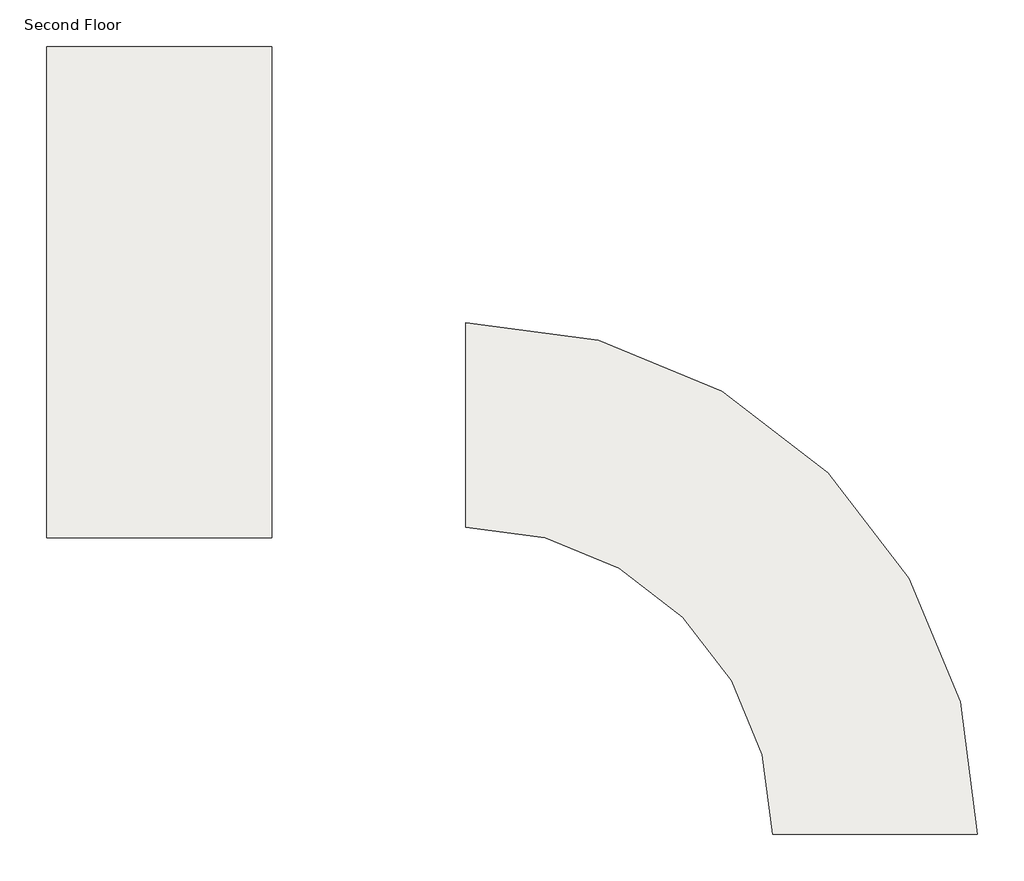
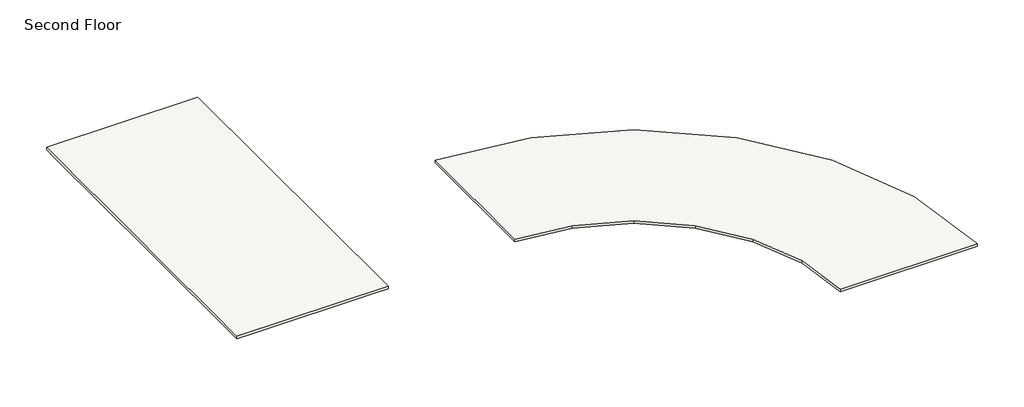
# One storey: 2 slabs.
"""IFC4 building model written with IfcOpenShell, lengths in millimetres."""

import ifcopenshell
import ifcopenshell.guid

model = None  # the IFC model being written
_history = None  # IfcOwnerHistory: only IFC2X3 demands one
_inside = {}  # id of a spatial element -> (the spatial element, [elements in it])
_under = {}  # id of a project, library or spatial element -> (it, [spatial elements below it])
_declared = {}  # id of a project -> (the project, [libraries it declares])
_typed = {}  # id of a type object -> (the type object, [elements of that type])
_made_of = {}  # id of a material, layer set ... -> (it, [elements and type objects made of it])


def new_model(schema):
    """Start an empty IFC model of exactly this schema.

    Asked for "IFC4X3", IfcOpenShell would pick the latest addendum, in which some entities
    have other attributes; the version numbers below select the first issue.
    IFC2X3 requires an IfcOwnerHistory on every rooted entity: one is made here for all.
    """
    global model, _history
    if schema == "IFC4X3":
        model = ifcopenshell.file(schema_version=(4, 3, 0, 0))
    else:
        model = ifcopenshell.file(schema=schema)
    _inside.clear()
    _under.clear()
    _declared.clear()
    _typed.clear()
    _made_of.clear()
    _history = None
    if model.schema == "IFC2X3":
        org = make("IfcOrganization", Name="unknown")
        user = make(
            "IfcPersonAndOrganization",
            ThePerson=make("IfcPerson", FamilyName="unknown"),
            TheOrganization=org,
        )
        app = make(
            "IfcApplication",
            ApplicationDeveloper=org,
            Version="unknown",
            ApplicationFullName="unknown",
            ApplicationIdentifier="unknown",
        )
        _history = make(
            "IfcOwnerHistory",
            OwningUser=user,
            OwningApplication=app,
            ChangeAction="ADDED",
            CreationDate=0,
        )
    return model


def make(cls, **values):
    """One entity of the class cls with the attributes given. An attribute that is None is left unset."""
    return model.create_entity(
        cls, **{name: value for name, value in values.items() if value is not None}
    )


def rooted(cls, **values):
    """An entity with a GlobalId (a new one), such as an element, a storey or a relation."""
    return make(cls, GlobalId=ifcopenshell.guid.new(), OwnerHistory=_history, **values)


def si_unit(unit_type, name, prefix=None):
    """IfcSIUnit, for example si_unit("LENGTHUNIT", "METRE", prefix="MILLI")."""
    return make("IfcSIUnit", UnitType=unit_type, Prefix=prefix, Name=name)


def assignment(units):
    """IfcUnitAssignment: the units of a project."""
    return None if units is None else make("IfcUnitAssignment", Units=units)


def point(xyz):
    """IfcCartesianPoint."""
    return None if xyz is None else make("IfcCartesianPoint", Coordinates=xyz)


def direction(xyz):
    """IfcDirection."""
    return None if xyz is None else make("IfcDirection", DirectionRatios=xyz)


def frame(location, z_axis=None, x_axis=None):
    """IfcAxis2Placement3D, a coordinate frame: its origin and axes. An axis left out is left unset."""
    return make(
        "IfcAxis2Placement3D",
        Location=point(location),
        Axis=direction(z_axis),
        RefDirection=direction(x_axis),
    )


def origin():
    """The frame at (0, 0, 0) with its axes left unset."""
    return frame((0.0, 0.0, 0.0))


def place(relative_to, where):
    """IfcLocalPlacement: puts the frame where relative to a parent placement (None: the world)."""
    return make(
        "IfcLocalPlacement", PlacementRelTo=relative_to, RelativePlacement=where
    )


def context(
    kind, dimensions, precision=None, world=None, true_north=None, identifier=None
):
    """IfcGeometricRepresentationContext, for example the 3D "Model" context."""
    return make(
        "IfcGeometricRepresentationContext",
        ContextIdentifier=identifier,
        ContextType=kind,
        CoordinateSpaceDimension=dimensions,
        Precision=precision,
        WorldCoordinateSystem=world,
        TrueNorth=true_north,
    )


def project(units=None, contexts=None):
    """IfcProject with its units and contexts."""
    return rooted(
        "IfcProject",
        Name="project",
        RepresentationContexts=contexts,
        UnitsInContext=assignment(units),
    )


def spatial(cls, under=None, at=None, **own):
    """A site, building, storey or space (cls), placed at a placement, below another one or the project."""
    s = rooted(cls, ObjectPlacement=at, **own)
    if under is not None:
        _under.setdefault(under.id(), (under, []))[1].append(s)
    return s


def polyline(points):
    """IfcPolyline through the points."""
    return make("IfcPolyline", Points=[point(p) for p in points])


def outline(outer, holes=None, kind="AREA"):
    """IfcArbitraryClosedProfileDef: a profile drawn as a closed curve; with holes, ...WithVoids."""
    if holes is None:
        return make("IfcArbitraryClosedProfileDef", ProfileType=kind, OuterCurve=outer)
    return make(
        "IfcArbitraryProfileDefWithVoids",
        ProfileType=kind,
        OuterCurve=outer,
        InnerCurves=holes,
    )


def extrude(swept, where, along, depth):
    """IfcExtrudedAreaSolid: the profile swept, set in the frame where, extruded along a direction by depth."""
    return make(
        "IfcExtrudedAreaSolid",
        SweptArea=swept,
        Position=where,
        ExtrudedDirection=direction(along),
        Depth=depth,
    )


def faces_of(points, faces, orient=None, outer=None):
    """IfcFace entities. A face is a list of loops; a loop is a list of indices into points, from 0.

    orient and outer hold one flag for each loop. By default every Orientation is true, the
    first loop of a face is its IfcFaceOuterBound and the others are IfcFaceBound.
    """
    made = []
    for i, loops in enumerate(faces):
        bounds = []
        for j, loop in enumerate(loops):
            is_outer = j == 0 if outer is None else outer[i][j]
            bounds.append(
                make(
                    "IfcFaceOuterBound" if is_outer else "IfcFaceBound",
                    Bound=make("IfcPolyLoop", Polygon=[points[k] for k in loop]),
                    Orientation=True if orient is None else orient[i][j],
                )
            )
        made.append(make("IfcFace", Bounds=bounds))
    return made


def faceted_brep(points, faces, orient=None, outer=None, voids=None):
    """IfcFacetedBrep: a solid bounded by flat faces; with voids (closed shells), ...WithVoids."""
    shared = [point(p) for p in points]
    hull = make("IfcClosedShell", CfsFaces=faces_of(shared, faces, orient, outer))
    if voids is None:
        return make("IfcFacetedBrep", Outer=hull)
    return make(
        "IfcFacetedBrepWithVoids",
        Outer=hull,
        Voids=[
            make(cls, CfsFaces=faces_of(shared, fs, o, b)) for cls, fs, o, b in voids
        ],
    )


def shape(context_of_items, identifier, shape_type, items):
    """IfcShapeRepresentation: the items that make up one representation, for example the "Body"."""
    return make(
        "IfcShapeRepresentation",
        ContextOfItems=context_of_items,
        RepresentationIdentifier=identifier,
        RepresentationType=shape_type,
        Items=items,
    )


def made_of(thing, what):
    """Note that an element or type object is made of a material, layer set ...; save() writes the relation."""
    if what is not None:
        _made_of.setdefault(what.id(), (what, []))[1].append(thing)
    return thing


def element(
    cls,
    number,
    at=None,
    inside=None,
    cuts=None,
    type_object=None,
    material=None,
    context=None,
    identifier="Body",
    shape_type=None,
    held_by="IfcProductDefinitionShape",
    body=None,
    shapes=None,
    **own,
):
    """One element of the class cls, such as IfcWall. Its Tag is "e" and its number.

    at: its placement. inside: the storey or other place that contains it. cuts: it is an
    opening in that element (IfcRelVoidsElement). A single representation is given by context,
    identifier, shape_type and body (its items); several are given by shapes. held_by: the class
    of the entity that holds the representations. save() writes the other relations.
    """
    e = rooted(cls, Tag="e%d" % number, ObjectPlacement=at, **own)
    if body is not None:
        shapes = [shape(context, identifier, shape_type, body)]
    if shapes is not None:
        e.Representation = make(held_by, Representations=shapes)
    if inside is not None:
        _inside.setdefault(inside.id(), (inside, []))[1].append(e)
    if cuts is not None:
        rooted(
            "IfcRelVoidsElement", RelatingBuildingElement=cuts, RelatedOpeningElement=e
        )
    if type_object is not None:
        _typed.setdefault(type_object.id(), (type_object, []))[1].append(e)
    return made_of(e, material)


def aggregate(whole, parts):
    """IfcRelAggregates: a whole, such as a stair, and the parts it consists of."""
    return rooted("IfcRelAggregates", RelatingObject=whole, RelatedObjects=parts)


def save(model, path):
    """Write the relations noted so far, then the file.

    IfcRelAggregates (storeys below a building ...), IfcRelContainedInSpatialStructure (elements
    in a storey), IfcRelDefinesByType, IfcRelAssociatesMaterial and IfcRelDeclares: one each for
    every whole, place, type object, material and project.
    """
    for whole, parts in _under.values():
        aggregate(whole, parts)
    for where, things in _inside.values():
        rooted(
            "IfcRelContainedInSpatialStructure",
            RelatedElements=things,
            RelatingStructure=where,
        )
    for kind, things in _typed.values():
        rooted("IfcRelDefinesByType", RelatedObjects=things, RelatingType=kind)
    for what, things in _made_of.values():
        rooted("IfcRelAssociatesMaterial", RelatedObjects=things, RelatingMaterial=what)
    for by, libraries in _declared.values():
        rooted("IfcRelDeclares", RelatingContext=by, RelatedDefinitions=libraries)
    model.write(path)


model = new_model("IFC4")

# Units and contexts
model_context = context("Model", 3, world=origin())
ifc_project = project(units=[si_unit("LENGTHUNIT", "METRE", prefix="MILLI")], contexts=[model_context])

# Site, building, storey
site = spatial("IfcSite", under=ifc_project)
building = spatial("IfcBuilding", under=site)
storey = spatial("IfcBuildingStorey", under=building, Name="Second Floor", Elevation=3048.0)

# Slabs
placement = place(None, origin())
element("IfcSlab", 1, ObjectType="LW Concrete on Metal Deck", at=placement, inside=storey, context=model_context, shape_type="Brep", body=[
    faceted_brep([(-34446.2783408, 12731.8963551, 3048.0), (-34446.2783408, 12122.2963551, 3048.0), (-34446.2783408, 4807.0963551, 3048.0), (-34446.2783408, 4197.4963551, 3048.0), (-34446.2783408, -1288.9036449, 3048.0), (-34446.2783408, -1898.5036449, 3048.0), (-35055.8783408, -1898.5036449, 3048.0), (-40542.2783408, -1898.5036449, 3048.0), (-41151.8783408, -1898.5036449, 3048.0), (-41151.8783408, -1288.9036449, 3048.0), (-41151.8783408, 4197.4963551, 3048.0), (-41151.8783408, 4807.0963551, 3048.0), (-41151.8783408, 12122.2963551, 3048.0), (-41151.8783408, 12731.8963551, 3048.0), (-40542.2783408, 12731.8963551, 3048.0), (-35055.8783408, 12731.8963551, 3048.0), (-34446.2783408, 12731.8963551, 3168.65), (-41151.8783408, 12731.8963551, 3168.65), (-41151.8783408, -1898.5036449, 3168.65), (-34446.2783408, -1898.5036449, 3168.65)], [[[0, 1, 2, 3, 4, 5, 6, 7, 8, 9, 10, 11, 12, 13, 14, 15]], [[16, 17, 18, 19]], [[5, 4, 3, 2, 1, 0, 16, 19]], [[8, 7, 6, 5, 19, 18]], [[13, 12, 11, 10, 9, 8, 18, 17]], [[0, 15, 14, 13, 17, 16]]]),
])
element("IfcSlab", 2, ObjectType="LW Concrete on Metal Deck", at=placement, inside=storey, context=model_context, shape_type="SweptSolid", body=[
    extrude(outline(polyline([(-24710.6760935, 3983.0059477), (-21035.0783408, 2460.5235088), (-17878.7709955, 38.6037004), (-15456.8511871, -3117.7036449), (-13934.3687482, -6793.3013975), (-13415.0783408, -10737.7036449), (-19511.0783408, -10737.7036449), (-19822.6525852, -8371.0622965), (-20736.1420486, -6165.7036449), (-22189.2939336, -4271.9192377), (-24083.0783408, -2818.7673527), (-26288.4369924, -1905.2778893), (-28655.0783408, -1593.7036449), (-28655.0783408, 4502.2963551), (-24710.6760935, 3983.0059477)])), frame((0.0, 0.0, 3048.0), z_axis=(0.0, 0.0, 1.0), x_axis=(1.0, 0.0, 0.0)), (0.0, 0.0, 1.0), 120.65),
])

save(model, "model.ifc")
